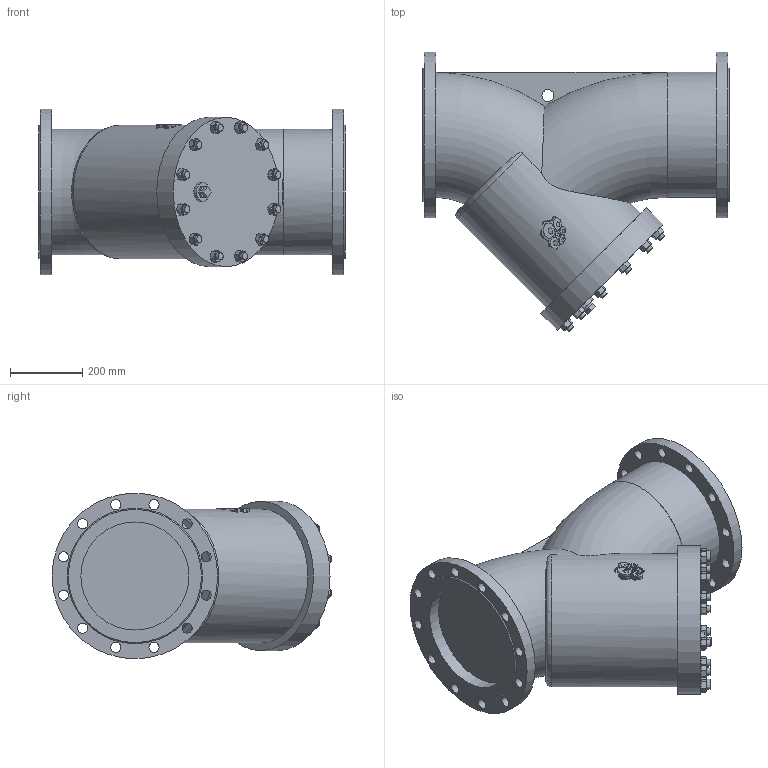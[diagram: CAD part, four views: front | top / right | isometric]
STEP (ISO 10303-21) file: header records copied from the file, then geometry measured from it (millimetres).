
FILE_DESCRIPTION(('STEP AP203'), '1');
FILE_NAME('3D_600_601-300-16_1,6_9', '', ('UNSPECIFIED'), ('UNSPECIFIED'), 'C3D Converter', 'C3D Toolkit', '');
FILE_SCHEMA(('CONFIG_CONTROL_DESIGN'));
Length unit declared in the file: millimetre
Bounding box: 850 x 777.18 x 460 mm (x, y, z)
Volume: 113993468.4 mm3; surface area: 2054584 mm2
Topology: 25 solids, 25 shells, 1082 faces, 3072 edges, 2065 vertices
Faces by surface type: plane 962, cylinder 65, cone 50, torus 5
Full cylindrical faces by diameter (mm): 15 x12, 20 x12, 28 x24, 33 x2, 51 x1, 300 x2, 371 x1, 415 x1, 460 x2
Entity records: 49941 total; most frequent: CARTESIAN_POINT 15490, ORIENTED_EDGE 5930, DIRECTION 4421, EDGE_CURVE 2965, VERTEX_POINT 2065, LINE 1735, VECTOR 1735, AXIS2_PLACEMENT_3D 1343
